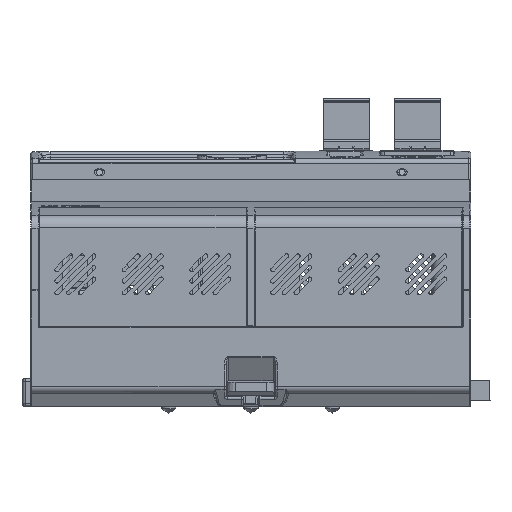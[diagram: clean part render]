
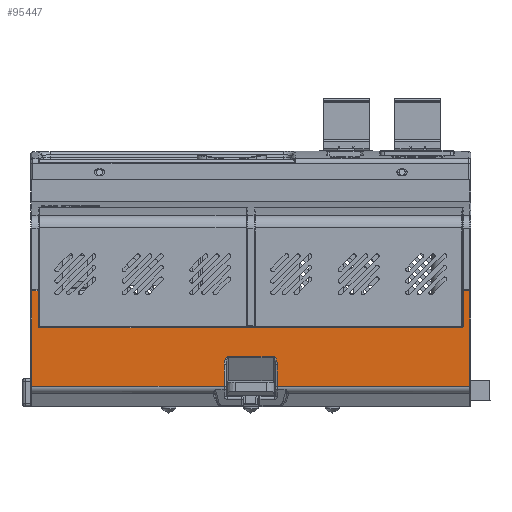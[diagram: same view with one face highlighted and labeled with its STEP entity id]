
A CAD part, front view. The second image highlights one B-rep face of the part: STEP entity #95447.
In plain terms, the highlighted planar face has unit normal (0, -1, 0).
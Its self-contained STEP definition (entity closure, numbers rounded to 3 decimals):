
#1030 = ORIENTED_EDGE ( 'NONE', *, *, #150834, .T. ) ;
#1253 = EDGE_CURVE ( 'NONE', #24722, #169686, #98481, .T. ) ;
#4022 = EDGE_CURVE ( 'NONE', #172050, #109649, #43089, .T. ) ;
#8401 = ORIENTED_EDGE ( 'NONE', *, *, #118291, .T. ) ;
#9922 = CARTESIAN_POINT ( 'NONE',  ( -6.5, -56., -23.574 ) ) ;
#9980 = ORIENTED_EDGE ( 'NONE', *, *, #28590, .T. ) ;
#10533 = LINE ( 'NONE', #123554, #57486 ) ;
#17602 = CARTESIAN_POINT ( 'NONE',  ( 52., -56., -8.8 ) ) ;
#18934 = VERTEX_POINT ( 'NONE', #29962 ) ;
#20738 = CARTESIAN_POINT ( 'NONE',  ( -5.5, -56., -16.304 ) ) ;
#21277 = CARTESIAN_POINT ( 'NONE',  ( 51.6, -56., -9.2 ) ) ;
#21636 = EDGE_CURVE ( 'NONE', #25686, #98013, #116971, .T. ) ;
#22780 = EDGE_LOOP ( 'NONE', ( #8401, #1030, #134431, #127421, #29214, #116835, #148739, #129472, #25650, #185373, #90544, #9980, #68216, #117396, #36358, #92775 ) ) ;
#24722 = VERTEX_POINT ( 'NONE', #9922 ) ;
#25334 = VERTEX_POINT ( 'NONE', #58452 ) ;
#25650 = ORIENTED_EDGE ( 'NONE', *, *, #101413, .T. ) ;
#25686 = VERTEX_POINT ( 'NONE', #21277 ) ;
#25825 = CARTESIAN_POINT ( 'NONE',  ( 52., -56., -0.2 ) ) ;
#28098 = CARTESIAN_POINT ( 'NONE',  ( -53.6, -56., -0.2 ) ) ;
#28590 = EDGE_CURVE ( 'NONE', #169686, #179044, #101146, .T. ) ;
#28593 = LINE ( 'NONE', #171557, #127249 ) ;
#29214 = ORIENTED_EDGE ( 'NONE', *, *, #103562, .T. ) ;
#29962 = CARTESIAN_POINT ( 'NONE',  ( 53.6, -56., -23.574 ) ) ;
#30673 = EDGE_CURVE ( 'NONE', #179044, #59681, #114704, .T. ) ;
#32878 = LINE ( 'NONE', #181875, #102484 ) ;
#33760 = PLANE ( 'NONE',  #135734 ) ;
#36358 = ORIENTED_EDGE ( 'NONE', *, *, #120516, .T. ) ;
#38890 = CARTESIAN_POINT ( 'NONE',  ( 6.086, -56., -16.304 ) ) ;
#39382 = DIRECTION ( 'NONE',  ( 0., -1., 0. ) ) ;
#39496 = CARTESIAN_POINT ( 'NONE',  ( 5.5, -56., -16.304 ) ) ;
#41241 = LINE ( 'NONE', #109847, #139845 ) ;
#41260 = CARTESIAN_POINT ( 'NONE',  ( 5.5, -56., -16.304 ) ) ;
#43089 = LINE ( 'NONE', #77782, #92576 ) ;
#45370 = CARTESIAN_POINT ( 'NONE',  ( -51.6, -56., -9.2 ) ) ;
#48738 = CARTESIAN_POINT ( 'NONE',  ( -6.086, -56., -16.304 ) ) ;
#50057 = CARTESIAN_POINT ( 'NONE',  ( -6.5, -56., 0. ) ) ;
#51639 = DIRECTION ( 'NONE',  ( 0., 0., -1. ) ) ;
#56688 = DIRECTION ( 'NONE',  ( 0., 0., 1. ) ) ;
#57486 = VECTOR ( 'NONE', #151902, 1000. ) ;
#57629 = LINE ( 'NONE', #164094, #136344 ) ;
#58452 = CARTESIAN_POINT ( 'NONE',  ( -52., -56., -8.8 ) ) ;
#59387 = DIRECTION ( 'NONE',  ( 0., -1., 0. ) ) ;
#59681 = VERTEX_POINT ( 'NONE', #41260 ) ;
#60660 = DIRECTION ( 'NONE',  ( 0., 1., 0. ) ) ;
#61313 = CARTESIAN_POINT ( 'NONE',  ( 53.6, -56., -0.2 ) ) ;
#67055 = EDGE_CURVE ( 'NONE', #59681, #157014, #81826, .T. ) ;
#68216 = ORIENTED_EDGE ( 'NONE', *, *, #30673, .T. ) ;
#71076 = CARTESIAN_POINT ( 'NONE',  ( -52., -56., -0.2 ) ) ;
#74021 = CARTESIAN_POINT ( 'NONE',  ( -53.6, -56., -23.574 ) ) ;
#74253 = DIRECTION ( 'NONE',  ( 0., 0., 1. ) ) ;
#77782 = CARTESIAN_POINT ( 'NONE',  ( 53.8, -56., -0.2 ) ) ;
#78515 = VECTOR ( 'NONE', #134384, 1000. ) ;
#80219 = CARTESIAN_POINT ( 'NONE',  ( -5.5, -56., -16.304 ) ) ;
#81225 = CARTESIAN_POINT ( 'NONE',  ( -51.6, -56., -8.8 ) ) ;
#81561 = DIRECTION ( 'NONE',  ( -1., 0., 0. ) ) ;
#81826 =( BOUNDED_CURVE ( )  B_SPLINE_CURVE ( 3, ( #39496, #38890, #139168, #182535 ),
 .UNSPECIFIED., .F., .F. ) 
 B_SPLINE_CURVE_WITH_KNOTS ( ( 4, 4 ),
 ( 3.142, 4.712 ),
 .UNSPECIFIED. ) 
 CURVE ( )  GEOMETRIC_REPRESENTATION_ITEM ( )  RATIONAL_B_SPLINE_CURVE ( ( 1., 0.805, 0.805, 1. ) ) 
 REPRESENTATION_ITEM ( '' )  );
#85219 = VECTOR ( 'NONE', #56688, 1000. ) ;
#86699 = VERTEX_POINT ( 'NONE', #45370 ) ;
#86728 = CARTESIAN_POINT ( 'NONE',  ( 53.6, -56., 0. ) ) ;
#90544 = ORIENTED_EDGE ( 'NONE', *, *, #1253, .T. ) ;
#92136 = DIRECTION ( 'NONE',  ( 0., 0., 1. ) ) ;
#92576 = VECTOR ( 'NONE', #107493, 1000. ) ;
#92775 = ORIENTED_EDGE ( 'NONE', *, *, #103799, .T. ) ;
#93247 = VERTEX_POINT ( 'NONE', #61313 ) ;
#94047 = DIRECTION ( 'NONE',  ( 0., 0., 1. ) ) ;
#95447 = ADVANCED_FACE ( 'NONE', ( #97388 ), #33760, .F. ) ;
#96447 = DIRECTION ( 'NONE',  ( 0., 0., 1. ) ) ;
#97388 = FACE_OUTER_BOUND ( 'NONE', #22780, .T. ) ;
#98013 = VERTEX_POINT ( 'NONE', #17602 ) ;
#98481 = LINE ( 'NONE', #50057, #125459 ) ;
#99861 = EDGE_CURVE ( 'NONE', #25334, #172050, #41241, .T. ) ;
#99960 = VERTEX_POINT ( 'NONE', #25825 ) ;
#101146 =( BOUNDED_CURVE ( )  B_SPLINE_CURVE ( 3, ( #106575, #178071, #48738, #20738 ),
 .UNSPECIFIED., .F., .F. ) 
 B_SPLINE_CURVE_WITH_KNOTS ( ( 4, 4 ),
 ( 1.571, 3.142 ),
 .UNSPECIFIED. ) 
 CURVE ( )  GEOMETRIC_REPRESENTATION_ITEM ( )  RATIONAL_B_SPLINE_CURVE ( ( 1., 0.805, 0.805, 1. ) ) 
 REPRESENTATION_ITEM ( '' )  );
#101413 = EDGE_CURVE ( 'NONE', #109649, #121741, #57629, .T. ) ;
#102484 = VECTOR ( 'NONE', #153071, 1000. ) ;
#103562 = EDGE_CURVE ( 'NONE', #25686, #86699, #28593, .T. ) ;
#103799 = EDGE_CURVE ( 'NONE', #160297, #18934, #32878, .T. ) ;
#106575 = CARTESIAN_POINT ( 'NONE',  ( -6.5, -56., -18.304 ) ) ;
#107493 = DIRECTION ( 'NONE',  ( -1., 0., 0. ) ) ;
#109649 = VERTEX_POINT ( 'NONE', #28098 ) ;
#109847 = CARTESIAN_POINT ( 'NONE',  ( -52., -56., 0. ) ) ;
#110330 = EDGE_CURVE ( 'NONE', #99960, #98013, #10533, .T. ) ;
#114704 = LINE ( 'NONE', #119918, #78515 ) ;
#115035 = DIRECTION ( 'NONE',  ( -1., 0., 0. ) ) ;
#116835 = ORIENTED_EDGE ( 'NONE', *, *, #153953, .F. ) ;
#116971 = CIRCLE ( 'NONE', #132240, 0.4 ) ;
#117396 = ORIENTED_EDGE ( 'NONE', *, *, #67055, .T. ) ;
#118291 = EDGE_CURVE ( 'NONE', #18934, #93247, #132443, .T. ) ;
#118423 = CARTESIAN_POINT ( 'NONE',  ( 6.5, -56., -18.304 ) ) ;
#119918 = CARTESIAN_POINT ( 'NONE',  ( 53.8, -56., -16.304 ) ) ;
#120516 = EDGE_CURVE ( 'NONE', #157014, #160297, #177599, .T. ) ;
#121467 = DIRECTION ( 'NONE',  ( 0., 0., -1. ) ) ;
#121741 = VERTEX_POINT ( 'NONE', #74021 ) ;
#123554 = CARTESIAN_POINT ( 'NONE',  ( 52., -56., -9. ) ) ;
#123806 = EDGE_CURVE ( 'NONE', #121741, #24722, #167473, .T. ) ;
#125459 = VECTOR ( 'NONE', #92136, 1000. ) ;
#127249 = VECTOR ( 'NONE', #115035, 1000. ) ;
#127421 = ORIENTED_EDGE ( 'NONE', *, *, #21636, .F. ) ;
#128580 = VECTOR ( 'NONE', #81561, 1000. ) ;
#129472 = ORIENTED_EDGE ( 'NONE', *, *, #4022, .T. ) ;
#132240 = AXIS2_PLACEMENT_3D ( 'NONE', #160456, #59387, #74253 ) ;
#132443 = LINE ( 'NONE', #86728, #85219 ) ;
#132814 = CARTESIAN_POINT ( 'NONE',  ( 53.8, -56., 0. ) ) ;
#134384 = DIRECTION ( 'NONE',  ( 1., 0., 0. ) ) ;
#134431 = ORIENTED_EDGE ( 'NONE', *, *, #110330, .T. ) ;
#135734 = AXIS2_PLACEMENT_3D ( 'NONE', #132814, #60660, #146627 ) ;
#135733 = CARTESIAN_POINT ( 'NONE',  ( 53.8, -56., -23.574 ) ) ;
#135821 = AXIS2_PLACEMENT_3D ( 'NONE', #81225, #39382, #96447 ) ;
#136344 = VECTOR ( 'NONE', #51639, 1000. ) ;
#139168 = CARTESIAN_POINT ( 'NONE',  ( 6.5, -56., -17.132 ) ) ;
#139845 = VECTOR ( 'NONE', #94047, 1000. ) ;
#142091 = LINE ( 'NONE', #167768, #128580 ) ;
#146627 = DIRECTION ( 'NONE',  ( 0., 0., 1. ) ) ;
#148739 = ORIENTED_EDGE ( 'NONE', *, *, #99861, .T. ) ;
#150834 = EDGE_CURVE ( 'NONE', #93247, #99960, #142091, .T. ) ;
#151051 = CARTESIAN_POINT ( 'NONE',  ( 6.5, -56., 0. ) ) ;
#151902 = DIRECTION ( 'NONE',  ( 0., 0., -1. ) ) ;
#153071 = DIRECTION ( 'NONE',  ( 1., 0., 0. ) ) ;
#153953 = EDGE_CURVE ( 'NONE', #25334, #86699, #155934, .T. ) ;
#155934 = CIRCLE ( 'NONE', #135821, 0.4 ) ;
#157014 = VERTEX_POINT ( 'NONE', #118423 ) ;
#160297 = VERTEX_POINT ( 'NONE', #184006 ) ;
#160456 = CARTESIAN_POINT ( 'NONE',  ( 51.6, -56., -8.8 ) ) ;
#164094 = CARTESIAN_POINT ( 'NONE',  ( -53.6, -56., -23.574 ) ) ;
#167473 = LINE ( 'NONE', #135733, #171942 ) ;
#167768 = CARTESIAN_POINT ( 'NONE',  ( 53.8, -56., -0.2 ) ) ;
#167776 = CARTESIAN_POINT ( 'NONE',  ( -6.5, -56., -18.304 ) ) ;
#169686 = VERTEX_POINT ( 'NONE', #167776 ) ;
#171557 = CARTESIAN_POINT ( 'NONE',  ( -51.8, -56., -9.2 ) ) ;
#171942 = VECTOR ( 'NONE', #177797, 1000. ) ;
#172050 = VERTEX_POINT ( 'NONE', #71076 ) ;
#177599 = LINE ( 'NONE', #151051, #182154 ) ;
#177797 = DIRECTION ( 'NONE',  ( 1., 0., 0. ) ) ;
#178071 = CARTESIAN_POINT ( 'NONE',  ( -6.5, -56., -17.132 ) ) ;
#179044 = VERTEX_POINT ( 'NONE', #80219 ) ;
#181875 = CARTESIAN_POINT ( 'NONE',  ( 53.8, -56., -23.574 ) ) ;
#182154 = VECTOR ( 'NONE', #121467, 1000. ) ;
#182535 = CARTESIAN_POINT ( 'NONE',  ( 6.5, -56., -18.304 ) ) ;
#184006 = CARTESIAN_POINT ( 'NONE',  ( 6.5, -56., -23.574 ) ) ;
#185373 = ORIENTED_EDGE ( 'NONE', *, *, #123806, .T. ) ;
